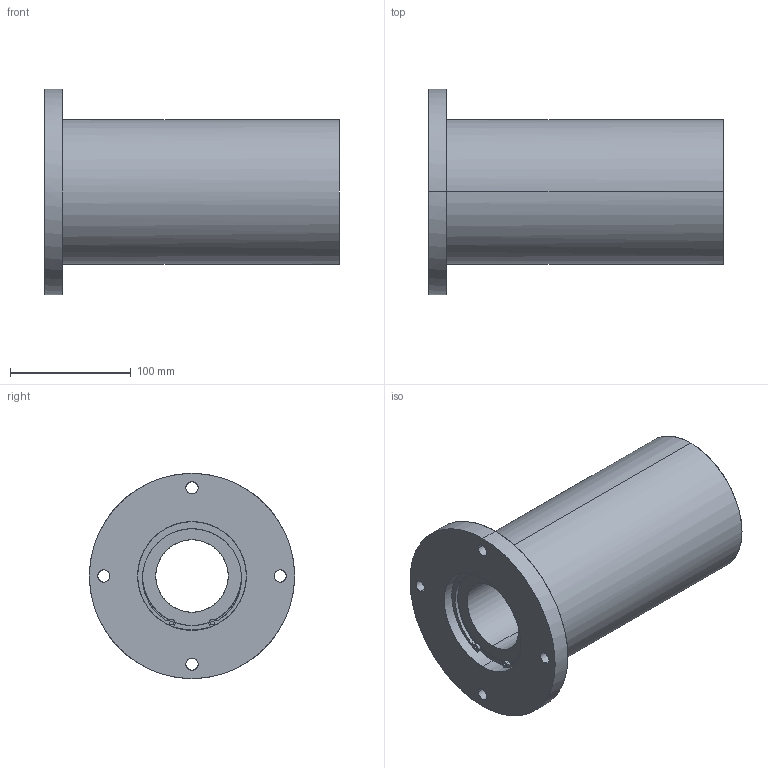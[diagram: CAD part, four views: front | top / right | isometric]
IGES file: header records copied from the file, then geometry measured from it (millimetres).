
Global section: file name: No Iges File Name specified; native system: AutoDesk Inventor R10; preprocessor: AutoDesk Inventor Iges Exporter R10; author: No Author specified; organization: No Organization specified; date: 20101214.135001; units: millimetre
Bounding box: 244 x 170 x 170 mm (x, y, z)
Surface area: 201315.3 mm2 (no closed solid volume)
Topology: 0 solids, 0 shells, 111 faces, 780 edges, 780 vertices
Faces by surface type: bspline 111
